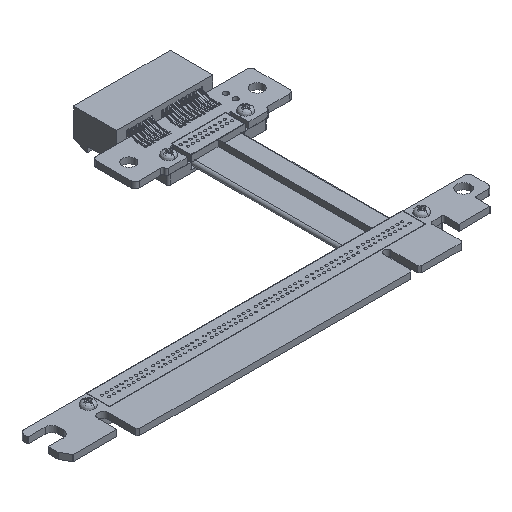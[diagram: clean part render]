
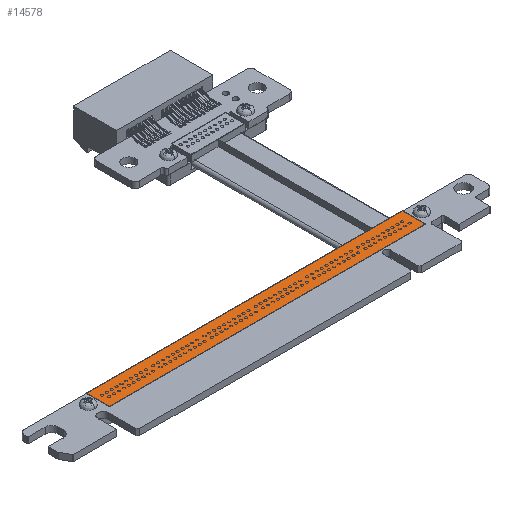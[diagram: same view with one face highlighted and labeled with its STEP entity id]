
A CAD part, isometric view. The second image highlights one B-rep face of the part: STEP entity #14578.
In plain terms, the highlighted planar face has unit normal (0, 0, 1) as drawn and (0, -1, 0) by its records, which use the part's own axes.
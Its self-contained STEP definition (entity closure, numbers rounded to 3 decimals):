
#14446 = EDGE_CURVE('',#14447,#14449,#14451,.T.);
#14447 = VERTEX_POINT('',#14448);
#14448 = CARTESIAN_POINT('',(0.,0.,0.));
#14449 = VERTEX_POINT('',#14450);
#14450 = CARTESIAN_POINT('',(0.,0.,-6.));
#14451 = LINE('',#14452,#14453);
#14452 = CARTESIAN_POINT('',(0.,0.,-6.));
#14453 = VECTOR('',#14454,1.);
#14454 = DIRECTION('',(0.,0.,-1.));
#14486 = EDGE_CURVE('',#14449,#14487,#14489,.T.);
#14487 = VERTEX_POINT('',#14488);
#14488 = CARTESIAN_POINT('',(-82.,0.,-6.));
#14489 = LINE('',#14490,#14491);
#14490 = CARTESIAN_POINT('',(-82.,0.,-6.));
#14491 = VECTOR('',#14492,1.);
#14492 = DIRECTION('',(-1.,0.,0.));
#14517 = EDGE_CURVE('',#14487,#14518,#14520,.T.);
#14518 = VERTEX_POINT('',#14519);
#14519 = CARTESIAN_POINT('',(-82.,0.,0.));
#14520 = LINE('',#14521,#14522);
#14521 = CARTESIAN_POINT('',(-82.,0.,0.));
#14522 = VECTOR('',#14523,1.);
#14523 = DIRECTION('',(0.,0.,1.));
#14548 = EDGE_CURVE('',#14518,#14447,#14549,.T.);
#14549 = LINE('',#14550,#14551);
#14550 = CARTESIAN_POINT('',(0.,0.,0.));
#14551 = VECTOR('',#14552,1.);
#14552 = DIRECTION('',(1.,0.,0.));
#14578 = ADVANCED_FACE('',(#14579),#14585,.T.);
#14579 = FACE_BOUND('',#14580,.T.);
#14580 = EDGE_LOOP('',(#14581,#14582,#14583,#14584));
#14581 = ORIENTED_EDGE('',*,*,#14446,.F.);
#14582 = ORIENTED_EDGE('',*,*,#14548,.F.);
#14583 = ORIENTED_EDGE('',*,*,#14517,.F.);
#14584 = ORIENTED_EDGE('',*,*,#14486,.F.);
#14585 = PLANE('',#14586);
#14586 = AXIS2_PLACEMENT_3D('',#14587,#14588,#14589);
#14587 = CARTESIAN_POINT('',(0.,0.,0.));
#14588 = DIRECTION('',(0.,-1.,0.));
#14589 = DIRECTION('',(0.,0.,-1.));
